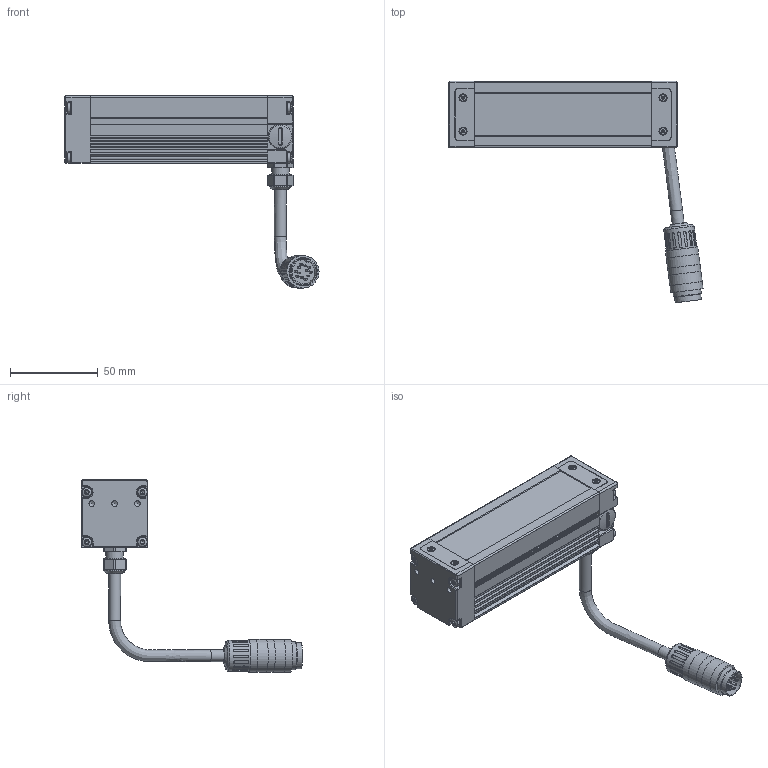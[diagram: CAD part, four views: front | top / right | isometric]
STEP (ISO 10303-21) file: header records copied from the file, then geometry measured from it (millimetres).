
FILE_DESCRIPTION(/* description */ (''),/* implementation_level */ '2;1');
FILE_NAME(/* name */ 'LBHP100',/* time_stamp */ '2025-01-14T08:03:15+01:00',/* author */ (''),/* organization */ ('iiM AG'),/* preprocessor_version */ 'ST-DEVELOPER v16.7',/* originating_system */ 'DEX',/* authorisation */ $);
FILE_SCHEMA (('TECHNICAL_DATA_PACKAGING','AUTOMOTIVE_DESIGN {1 0 10303 214 3 1 1}'));
Length unit declared in the file: millimetre
Products named in the file (1): step export
Bounding box: 144.79 x 126.2 x 109.58 mm (x, y, z)
Volume: 182906.8 mm3; surface area: 45057.1 mm2
Topology: 2 solids, 2 shells, 882 faces, 2334 edges, 1476 vertices
Faces by surface type: cylinder 368, plane 336, cone 138, sphere 21, torus 16, bspline 3
Full cylindrical faces by diameter (mm): 1.001 x12, 2.693 x4, 3 x2, 3.1 x4, 3.242 x6, 3.8 x8, 5.6 x8, 6 x8, 6.8 x2, 8.008 x1, 10 x1, 11 x1, 12.9 x2, 14 x1, 15.015 x1, 16.016 x1, 17.518 x1, 18.519 x3, 18.619 x2
Entity records: 32582 total; most frequent: CARTESIAN_POINT 6224, ORIENTED_EDGE 4118, DIRECTION 4048, EDGE_CURVE 2059, AXIS2_PLACEMENT_3D 1523, VERTEX_POINT 1383, FACE_BOUND 1100, EDGE_LOOP 1086
